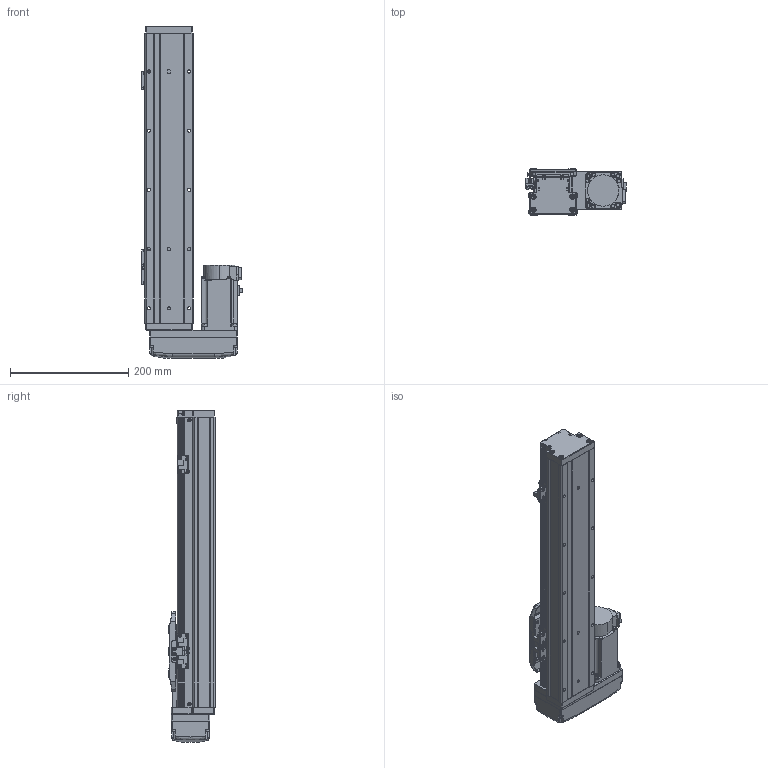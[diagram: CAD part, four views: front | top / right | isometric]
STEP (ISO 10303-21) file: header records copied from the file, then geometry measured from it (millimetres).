
FILE_DESCRIPTION (( 'STEP AP203' ), '1' );
FILE_NAME ('GTH8-300-BR-M20-C4.step', '2022-09-23T01:09:44', ( '微软用户' ), ( '微软中国' ), 'SwSTEP 2.0', 'SolidWorks 2020', '' );
FILE_SCHEMA (( 'CONFIG_CONTROL_DESIGN' ));
Length unit declared in the file: millimetre
Products named in the file (18): GTH80-004; GTH80-028; GBT96.1-2002 3×0.8; GTH80-006; GTH50-024; BTH-M3X5X6; GTH80-013; hg-kn43j_-s100_; GBT 70.3-M3℅6; CTHA86-015-1_CTHA86-015-2; GTH80-022; CTHA86-033_M40B; GTH80-001_300; GBT 70.1-M3℅6; GTH8-300-BR-M20-C4; GTH80-003; GBT 70.1-M4×16; GTH50-023
Assembly tree (57 placements, depth 2):
  GTH8-300-BR-M20-C4
    GTH80-001_300
    GTH80-003
    GTH80-004
    GTH80-006
    GTH80-013
    GBT 70.3-M3℅6  x4
    GTH80-022
    GBT 70.1-M3℅6  x14
    GBT 70.1-M4×16  x8
    GTH80-028  x2
    GTH50-024  x3
    GTH50-023  x3
    GBT96.1-2002 3×0.8  x6
    BTH-M3X5X6  x8
    hg-kn43j_-s100_
    CTHA86-015-1_CTHA86-015-2
    CTHA86-033_M40B
Bounding box: 169.7 x 78 x 561 mm (x, y, z)
Volume: 3113433.1 mm3; surface area: 362541.6 mm2
Topology: 59 solids, 59 shells, 2228 faces, 5139 edges, 3147 vertices
Faces by surface type: plane 1187, cylinder 599, cone 260, torus 166, bspline 8, sphere 8
Entity records: 40478 total; most frequent: CARTESIAN_POINT 7121, DIRECTION 6565, ORIENTED_EDGE 6096, EDGE_CURVE 3048, AXIS2_PLACEMENT_3D 2289, LINE 1987, VECTOR 1987, VERTEX_POINT 1922
